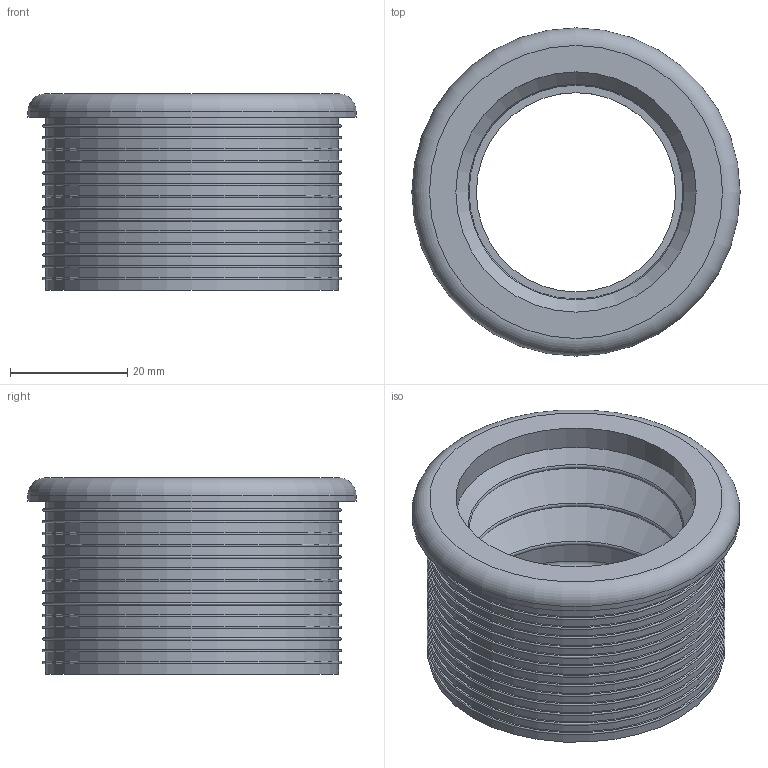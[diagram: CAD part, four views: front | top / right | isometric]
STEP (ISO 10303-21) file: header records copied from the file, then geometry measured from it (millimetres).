
FILE_DESCRIPTION(/* description */ (''),/* implementation_level */ '2;1');
FILE_NAME(/* name */ 'H:\Geberit-Teile\Export\Manschetten 152.6xx\stp\152690.stp',/* time_stamp */ '2016-07-27T14:30:02+02:00',/* author */ ('seihe2'),/* organization */ (''),/* preprocessor_version */ 'ST-DEVELOPER v15.2',/* originating_system */ 'Autodesk Inventor 2014',/* authorisation */ '');
FILE_SCHEMA (('AUTOMOTIVE_DESIGN { 1 0 10303 214 3 1 1 }'));
Length unit declared in the file: millimetre
Products named in the file (1): 152690
Bounding box: 56 x 56 x 33.5 mm (x, y, z)
Volume: 19339.2 mm3; surface area: 18117.2 mm2
Topology: 1 solids, 1 shells, 83 faces, 136 edges, 85 vertices
Faces by surface type: plane 32, torus 24, cylinder 21, cone 6
Full cylindrical faces by diameter (mm): 34 x1, 41 x1, 46 x3, 50 x15, 56 x1
Entity records: 1775 total; most frequent: DIRECTION 334, CARTESIAN_POINT 250, AXIS2_PLACEMENT_3D 167, EDGE_LOOP 166, ORIENTED_EDGE 166, FACE_BOUND 99, STYLED_ITEM 84, CIRCLE 83
